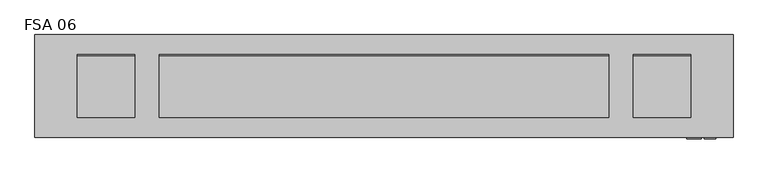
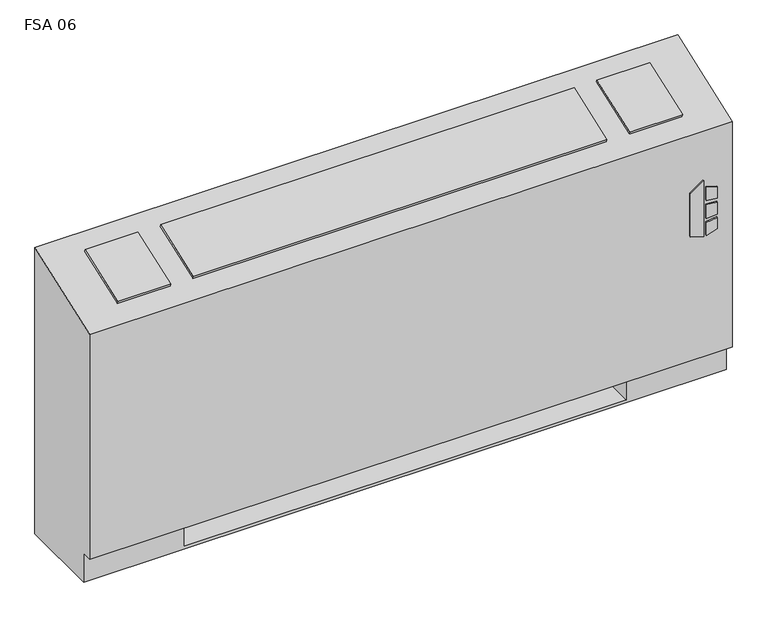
"""IFC4 building model written with IfcOpenShell, lengths in millimetres: proxy geometry, Vertical_Fan_Coil_Unit_-_FSA_-_IEC_-_4-Pipe_TS-FR_RH_2022 : FSA 06."""

from ifc_helpers import new_model, si_unit, point, frame, frame_2d, origin, place, context, project, spatial, polyline, circle_curve, trimmed, segment, composite_curve, outline, extrude, source, transform, mapped, element, save
from ifc_brep_helpers import plane_surface, revolved_surface, advanced_brep


def fsa_06_753d8a43(model_context):
    return source(origin(), model_context, "Body", "SolidModel", [
        extrude(outline(polyline([(391.6086829, 823.9868862), (381.6606126, 856.1602728), (523.831537, 856.1602728), (500.8095309, 823.9868862), (391.6086829, 823.9868862)])), frame((0.0, 12.7, 0.0), z_axis=(0.0, 1.0, 0.0), x_axis=(0.0, 0.0, 1.0)), (0.0, 0.0, 1.0), 3.175),
        extrude(outline(polyline([(470.6079683, 862.9186058), (467.4055757, 889.0), (496.6344168, 889.0), (504.6988318, 862.9186058), (470.6079683, 862.9186058)])), frame((0.0, 12.7, 0.0), z_axis=(0.0, 1.0, 0.0), x_axis=(0.0, 0.0, 1.0)), (0.0, 0.0, 1.0), 3.175),
        extrude(outline(polyline([(418.7444414, 889.0), (415.0789404, 862.9186058), (381.6606126, 862.9186058), (390.2948498, 889.0), (418.7444414, 889.0)])), frame((0.0, 12.7, 0.0), z_axis=(0.0, 1.0, 0.0), x_axis=(0.0, 0.0, 1.0)), (0.0, 0.0, 1.0), 3.175),
        extrude(outline(polyline([(458.0596028, 889.0), (460.3414292, 862.9186058), (424.4038806, 862.9186058), (427.1451456, 889.0), (458.0596028, 889.0)])), frame((0.0, 12.7, 0.0), z_axis=(0.0, 1.0, 0.0), x_axis=(0.0, 0.0, 1.0)), (0.0, 0.0, 1.0), 3.175),
        extrude(outline(polyline([(-501.65, 81.534), (-501.65, 223.266), (-381.0, 223.266), (-381.0, 81.534), (-501.65, 81.534)])), frame((0.0, 0.0, 327.025), z_axis=(0.0, 0.0, 1.0), x_axis=(1.0, 0.0, 0.0)), (0.0, 0.0, 1.0), 260.35),
        extrude(outline(composite_curve([segment(trimmed(circle_curve(frame_2d((749.3, 130.175)), 9.525), [point((739.775, 130.175))], [point((758.825, 130.175))], False, "CARTESIAN"), True, "CONTINUOUS"), segment(trimmed(circle_curve(frame_2d((749.3, 130.175)), 9.525), [point((758.825, 130.175))], [point((739.775, 130.175))], False, "CARTESIAN"), True, "CONTINUOUS")], self_intersect=False)), frame((0.0, 0.0, 101.6), z_axis=(0.0, 0.0, 1.0), x_axis=(1.0, 0.0, 0.0)), (0.0, 0.0, 1.0), 25.4),
        extrude(outline(polyline([(850.9, 196.85), (850.9, 63.5), (685.8, 63.5), (685.8, 196.85), (850.9, 196.85)])), frame((0.0, 0.0, 127.0), z_axis=(0.0, 0.0, 1.0), x_axis=(1.0, 0.0, 0.0)), (0.0, 0.0, 1.0), 50.8),
        extrude(outline(polyline([(0.0, -146.0500001), (0.0, 0.0), (127.0, 0.0), (127.0, -146.0500001), (0.0, -146.0500001)])), frame((-528.193, 200.4217127, 714.3418685), z_axis=(0.0, -0.3396444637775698, 0.9405538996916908), x_axis=(1.0, 0.0, 0.0)), (0.0, 0.0, 1.0), 6.35),
        extrude(outline(polyline([(0.0, -146.0500001), (0.0, 0.0), (996.95, 0.0), (996.95, -146.0500001), (0.0, -146.0500001)])), frame((650.875, 63.0538156, 664.7367945), z_axis=(0.0, -0.33964446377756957, 0.9405538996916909), x_axis=(-1.0, 0.0, 0.0)), (0.0, 0.0, 1.0), 6.35),
        extrude(outline(polyline([(0.0, -146.0500001), (0.0, 0.0), (127.0, 0.0), (127.0, -146.0500001), (0.0, -146.0500001)])), frame((832.993, 63.0538156, 664.7367945), z_axis=(0.0, -0.3396444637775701, 0.9405538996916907), x_axis=(-1.0, 0.0, 0.0)), (0.0, 0.0, 1.0), 6.35),
        extrude(outline(composite_curve([segment(trimmed(circle_curve(frame_2d((107.95, 457.2)), 7.9375), [point((107.95, 465.1375))], [point((107.95, 449.2625))], False, "CARTESIAN"), True, "CONTINUOUS"), segment(trimmed(circle_curve(frame_2d((107.95, 457.2)), 7.9375), [point((107.95, 449.2625))], [point((107.95, 465.1375))], False, "CARTESIAN"), True, "CONTINUOUS")], self_intersect=False)), frame((685.8, 0.0, 0.0), z_axis=(1.0, 0.0, 0.0), x_axis=(0.0, 1.0, 0.0)), (0.0, 0.0, 1.0), 50.8),
        extrude(outline(composite_curve([segment(trimmed(circle_curve(frame_2d((155.575, 431.8)), 7.9375), [point((155.575, 439.7375))], [point((155.575, 423.8625))], False, "CARTESIAN"), True, "CONTINUOUS"), segment(trimmed(circle_curve(frame_2d((155.575, 431.8)), 7.9375), [point((155.575, 423.8625))], [point((155.575, 439.7375))], False, "CARTESIAN"), True, "CONTINUOUS")], self_intersect=False)), frame((685.8, 0.0, 0.0), z_axis=(1.0, 0.0, 0.0), x_axis=(0.0, 1.0, 0.0)), (0.0, 0.0, 1.0), 50.8),
        extrude(outline(composite_curve([segment(trimmed(circle_curve(frame_2d((130.175, 554.99)), 7.9502), [point((130.175, 562.9402))], [point((130.175, 547.0398))], False, "CARTESIAN"), True, "CONTINUOUS"), segment(trimmed(circle_curve(frame_2d((130.175, 554.99)), 7.9502), [point((130.175, 547.0398))], [point((130.175, 562.9402))], False, "CARTESIAN"), True, "CONTINUOUS")], self_intersect=False)), frame((685.8, 0.0, 0.0), z_axis=(1.0, 0.0, 0.0), x_axis=(0.0, 1.0, 0.0)), (0.0, 0.0, 1.0), 50.8),
        extrude(outline(composite_curve([segment(trimmed(circle_curve(frame_2d((53.975, 416.56)), 7.9502), [point((53.975, 424.5102))], [point((53.975, 408.6098))], False, "CARTESIAN"), True, "CONTINUOUS"), segment(trimmed(circle_curve(frame_2d((53.975, 416.56)), 7.9502), [point((53.975, 408.6098))], [point((53.975, 424.5102))], False, "CARTESIAN"), True, "CONTINUOUS")], self_intersect=False)), frame((685.8, 0.0, 0.0), z_axis=(1.0, 0.0, 0.0), x_axis=(0.0, 1.0, 0.0)), (0.0, 0.0, 1.0), 50.8),
        advanced_brep(
        [(-622.3, 244.475, 0.0), (927.1, 244.475, 0.0), (927.1, 41.275, 0.0), (-622.3, 41.275, 0.0), (-622.3, 244.475, 730.25), (927.1, 244.475, 730.25), (685.8, 244.475, 73.025), (914.4, 244.475, 73.025), (914.4, 244.475, 654.05), (685.8, 244.475, 654.05), (685.8, 244.475, 414.8650565), (714.375, 244.475, 414.8650565), (714.375, 244.475, 385.2349435), (685.8, 244.475, 385.2349435), (685.8, 244.475, 287.3375), (714.375, 244.475, 287.3375), (714.375, 244.475, 258.7625), (685.8, 244.475, 258.7625), (685.8, 244.475, 141.2875), (714.375, 244.475, 141.2875), (714.375, 244.475, 112.7125), (685.8, 244.475, 112.7125), (-381.0, 244.475, 654.05), (-609.6, 244.475, 654.05), (-609.6, 244.475, 73.025), (-381.0, 244.475, 73.025), (-381.0, 244.475, 112.7125), (-409.575, 244.475, 112.7125), (-409.575, 244.475, 141.2875), (-381.0, 244.475, 141.2875), (-381.0, 244.475, 258.7625), (-409.575, 244.475, 258.7625), (-409.575, 244.475, 287.3375), (-381.0, 244.475, 287.3375), (-381.0, 244.475, 385.2349435), (-409.575, 244.475, 385.2349435), (-409.575, 244.475, 414.8650565), (-381.0, 244.475, 414.8650565), (704.0626, 244.475, 127.0), (692.9374, 244.475, 127.0), (704.0626, 244.475, 400.05), (692.9374, 244.475, 400.05), (704.0626, 244.475, 273.05), (692.9374, 244.475, 273.05), (-388.1374, 244.475, 127.0), (-399.2626, 244.475, 127.0), (-388.1374, 244.475, 273.05), (-399.2626, 244.475, 273.05), (-388.1374, 244.475, 400.05), (-399.2626, 244.475, 400.05), (-622.3, 41.275, 73.025), (-622.3, 15.875, 73.025), (-622.3, 15.875, 647.7), (927.1, 15.875, 73.025), (927.1, 15.875, 647.7), (927.1, 41.275, 73.025), (-381.0, 41.275, 73.025), (-381.0, 225.425, 73.025), (685.8, 225.425, 73.025), (685.8, 41.275, 73.025), (685.8, 41.275, 6.35), (-381.0, 41.275, 6.35), (685.8, 41.275, 654.05), (914.4, 41.275, 654.05), (914.4, 41.275, 73.025), (685.8, 41.275, 73.025), (-381.0, 41.275, 654.05), (-381.0, 41.275, 73.025), (-609.6, 41.275, 73.025), (-609.6, 41.275, 654.05), (685.8, 225.425, 73.025), (685.8, 238.125, 112.7125), (685.8, 238.125, 141.2875), (685.8, 238.125, 258.7625), (685.8, 238.125, 287.3375), (685.8, 238.125, 385.2349435), (685.8, 238.125, 414.8650565), (-381.0, 225.425, 73.025), (-381.0, 238.125, 414.8650565), (-381.0, 238.125, 385.2349435), (-381.0, 238.125, 287.3375), (-381.0, 238.125, 258.7625), (-381.0, 238.125, 141.2875), (-381.0, 238.125, 112.7125), (-381.0, 225.425, 6.35), (685.8, 225.425, 6.35), (714.375, 238.125, 112.7125), (714.375, 238.125, 141.2875), (692.9374, 238.125, 127.0), (704.0626, 238.125, 127.0), (714.375, 238.125, 258.7625), (714.375, 238.125, 287.3375), (692.9374, 238.125, 273.05), (704.0626, 238.125, 273.05), (714.375, 238.125, 385.2349435), (714.375, 238.125, 414.8650565), (692.9374, 238.125, 400.05), (704.0626, 238.125, 400.05), (-409.575, 238.125, 141.2875), (-409.575, 238.125, 112.7125), (-399.2626, 238.125, 127.0), (-388.1374, 238.125, 127.0), (-409.575, 238.125, 287.3375), (-409.575, 238.125, 258.7625), (-399.2626, 238.125, 273.05), (-388.1374, 238.125, 273.05), (-409.575, 238.125, 414.8650565), (-409.575, 238.125, 385.2349435), (-399.2626, 238.125, 400.05), (-388.1374, 238.125, 400.05)],
        [
            (0, 1),
            (1, 2),
            (2, 3),
            (3, 0),
            (0, 4),
            (4, 5),
            (5, 1),
            (6, 7),
            (7, 8),
            (8, 9),
            (9, 10),
            (10, 11),
            (11, 12),
            (12, 13),
            (13, 14),
            (14, 15),
            (15, 16),
            (16, 17),
            (17, 18),
            (18, 19),
            (19, 20),
            (20, 21),
            (21, 6),
            (22, 23),
            (23, 24),
            (24, 25),
            (25, 26),
            (26, 27),
            (27, 28),
            (28, 29),
            (29, 30),
            (30, 31),
            (31, 32),
            (32, 33),
            (33, 34),
            (34, 35),
            (35, 36),
            (36, 37),
            (37, 22),
            (38, 39, circle_curve(frame((698.5, 244.475, 127.0), z_axis=(0.0, -1.0, 0.0), x_axis=(-1.0, 0.0, 0.0)), 5.5626)),
            (39, 38, circle_curve(frame((698.5, 244.475, 127.0), z_axis=(0.0, -1.0, 0.0), x_axis=(-1.0, 0.0, 0.0)), 5.5626)),
            (40, 41, circle_curve(frame((698.5, 244.475, 400.05), z_axis=(0.0, -1.0, 0.0), x_axis=(-1.0, 0.0, 0.0)), 5.5626)),
            (41, 40, circle_curve(frame((698.5, 244.475, 400.05), z_axis=(0.0, -1.0, 0.0), x_axis=(-1.0, 0.0, 0.0)), 5.5626)),
            (42, 43, circle_curve(frame((698.5, 244.475, 273.05), z_axis=(0.0, -1.0, 0.0), x_axis=(-1.0, 0.0, 0.0)), 5.5626)),
            (43, 42, circle_curve(frame((698.5, 244.475, 273.05), z_axis=(0.0, -1.0, 0.0), x_axis=(-1.0, 0.0, 0.0)), 5.5626)),
            (44, 45, circle_curve(frame((-393.7, 244.475, 127.0), z_axis=(0.0, -1.0, 0.0), x_axis=(-1.0, 0.0, 0.0)), 5.5626)),
            (45, 44, circle_curve(frame((-393.7, 244.475, 127.0), z_axis=(0.0, -1.0, 0.0), x_axis=(-1.0, 0.0, 0.0)), 5.5626)),
            (46, 47, circle_curve(frame((-393.7, 244.475, 273.05), z_axis=(0.0, -1.0, 0.0), x_axis=(-1.0, 0.0, 0.0)), 5.5626)),
            (47, 46, circle_curve(frame((-393.7, 244.475, 273.05), z_axis=(0.0, -1.0, 0.0), x_axis=(-1.0, 0.0, 0.0)), 5.5626)),
            (48, 49, circle_curve(frame((-393.7, 244.475, 400.05), z_axis=(0.0, -1.0, 0.0), x_axis=(-1.0, 0.0, 0.0)), 5.5626)),
            (49, 48, circle_curve(frame((-393.7, 244.475, 400.05), z_axis=(0.0, -1.0, 0.0), x_axis=(-1.0, 0.0, 0.0)), 5.5626)),
            (3, 50),
            (50, 51),
            (51, 52),
            (52, 4),
            (51, 53),
            (53, 54),
            (54, 52),
            (5, 54),
            (53, 55),
            (55, 2),
            (50, 56),
            (56, 57),
            (57, 58),
            (58, 59),
            (59, 55),
            (59, 60),
            (60, 61),
            (61, 56),
            (62, 63),
            (63, 64),
            (64, 65),
            (65, 62),
            (66, 67),
            (67, 68),
            (68, 69),
            (69, 66),
            (65, 70),
            (70, 6),
            (21, 71),
            (71, 72),
            (72, 18),
            (17, 73),
            (73, 74),
            (74, 14),
            (13, 75),
            (75, 76),
            (76, 10),
            (9, 62),
            (64, 7),
            (63, 8),
            (69, 23),
            (22, 66),
            (68, 24),
            (67, 77),
            (77, 25),
            (37, 78),
            (78, 79),
            (79, 34),
            (33, 80),
            (80, 81),
            (81, 30),
            (29, 82),
            (82, 83),
            (83, 26),
            (57, 84),
            (84, 85),
            (85, 58),
            (85, 60),
            (84, 61),
            (71, 86),
            (86, 87),
            (87, 72),
            (88, 89, circle_curve(frame((698.5, 238.125, 127.0), z_axis=(0.0, 1.0, 0.0), x_axis=(-1.0, 0.0, 0.0)), 5.5626)),
            (89, 88, circle_curve(frame((698.5, 238.125, 127.0), z_axis=(0.0, 1.0, 0.0), x_axis=(-1.0, 0.0, 0.0)), 5.5626)),
            (73, 90),
            (90, 91),
            (91, 74),
            (92, 93, circle_curve(frame((698.5, 238.125, 273.05), z_axis=(0.0, 1.0, 0.0), x_axis=(-1.0, 0.0, 0.0)), 5.5626)),
            (93, 92, circle_curve(frame((698.5, 238.125, 273.05), z_axis=(0.0, 1.0, 0.0), x_axis=(-1.0, 0.0, 0.0)), 5.5626)),
            (75, 94),
            (94, 95),
            (95, 76),
            (96, 97, circle_curve(frame((698.5, 238.125, 400.05), z_axis=(0.0, 1.0, 0.0), x_axis=(-1.0, 0.0, 0.0)), 5.5626)),
            (97, 96, circle_curve(frame((698.5, 238.125, 400.05), z_axis=(0.0, 1.0, 0.0), x_axis=(-1.0, 0.0, 0.0)), 5.5626)),
            (98, 99),
            (99, 83),
            (82, 98),
            (100, 101, circle_curve(frame((-393.7, 238.125, 127.0), z_axis=(0.0, 1.0, 0.0), x_axis=(-1.0, 0.0, 0.0)), 5.5626)),
            (101, 100, circle_curve(frame((-393.7, 238.125, 127.0), z_axis=(0.0, 1.0, 0.0), x_axis=(-1.0, 0.0, 0.0)), 5.5626)),
            (102, 103),
            (103, 81),
            (80, 102),
            (104, 105, circle_curve(frame((-393.7, 238.125, 273.05), z_axis=(0.0, 1.0, 0.0), x_axis=(-1.0, 0.0, 0.0)), 5.5626)),
            (105, 104, circle_curve(frame((-393.7, 238.125, 273.05), z_axis=(0.0, 1.0, 0.0), x_axis=(-1.0, 0.0, 0.0)), 5.5626)),
            (106, 107),
            (107, 79),
            (78, 106),
            (108, 109, circle_curve(frame((-393.7, 238.125, 400.05), z_axis=(0.0, 1.0, 0.0), x_axis=(-1.0, 0.0, 0.0)), 5.5626)),
            (109, 108, circle_curve(frame((-393.7, 238.125, 400.05), z_axis=(0.0, 1.0, 0.0), x_axis=(-1.0, 0.0, 0.0)), 5.5626)),
            (87, 19),
            (86, 20),
            (91, 15),
            (90, 16),
            (95, 11),
            (94, 12),
            (28, 98),
            (99, 27),
            (32, 102),
            (103, 31),
            (36, 106),
            (107, 35),
            (88, 39),
            (38, 89),
            (96, 41),
            (40, 97),
            (92, 43),
            (42, 93),
            (100, 45),
            (44, 101),
            (104, 47),
            (46, 105),
            (108, 49),
            (48, 109),
        ],
        [
            plane_surface(frame((-622.3, 244.475, 0.0), z_axis=(0.0, 0.0, -1.0), x_axis=(1.0, 0.0, 0.0))),
            plane_surface(frame((927.1, 244.475, 730.25), z_axis=(0.0, 1.0, 0.0), x_axis=(0.0, 0.0, -1.0))),
            plane_surface(frame((-622.3, 244.475, 730.25), z_axis=(-1.0, 0.0, 0.0), x_axis=(0.0, 0.0, -1.0))),
            plane_surface(frame((-622.3, 15.875, 730.25), z_axis=(0.0, -1.0, 0.0), x_axis=(0.0, 0.0, -1.0))),
            plane_surface(frame((927.1, 15.875, 730.25), z_axis=(1.0, 0.0, 0.0), x_axis=(0.0, 0.0, -1.0))),
            plane_surface(frame((-622.3, 15.875, 73.025), z_axis=(0.0, 0.0, -1.0), x_axis=(1.0, 0.0, 0.0))),
            plane_surface(frame((-622.3, 41.275, 73.025), z_axis=(0.0, -1.0, 0.0), x_axis=(1.0, 0.0, 0.0))),
            plane_surface(frame((685.8, 41.275, 654.05), z_axis=(0.0, 1.0, 0.0), x_axis=(0.0, 0.0, -1.0))),
            plane_surface(frame((685.8, 41.275, 654.05), z_axis=(1.0, 0.0, 0.0), x_axis=(0.0, 1.0, 0.0))),
            plane_surface(frame((685.8, 41.275, 73.025), z_axis=(0.0, 0.0, 1.0), x_axis=(0.0, 1.0, 0.0))),
            plane_surface(frame((914.4, 41.275, 73.025), z_axis=(-1.0, 0.0, 0.0), x_axis=(0.0, 1.0, 0.0))),
            plane_surface(frame((914.4, 41.275, 654.05), z_axis=(0.0, 0.0, -1.0), x_axis=(0.0, 1.0, 0.0))),
            plane_surface(frame((-381.0, 41.275, 654.05), z_axis=(0.0, 0.0, -1.0), x_axis=(0.0, 1.0, 0.0))),
            plane_surface(frame((-609.6, 41.275, 654.05), z_axis=(1.0, 0.0, 0.0), x_axis=(0.0, 1.0, 0.0))),
            plane_surface(frame((-609.6, 41.275, 73.025), z_axis=(0.0, 0.0, 1.0), x_axis=(0.0, 1.0, 0.0))),
            plane_surface(frame((-381.0, 41.275, 73.025), z_axis=(-1.0, 0.0, 0.0), x_axis=(0.0, 1.0, 0.0))),
            plane_surface(frame((685.8, 225.425, 73.025), z_axis=(0.0, -1.0, 0.0), x_axis=(0.0, 0.0, -1.0))),
            plane_surface(frame((685.8, 225.425, 73.025), z_axis=(-1.0, 0.0, 0.0), x_axis=(0.0, -1.0, 0.0))),
            plane_surface(frame((685.8, 225.425, 6.35), z_axis=(0.0, 0.0, 1.0), x_axis=(0.0, -1.0, 0.0))),
            plane_surface(frame((-381.0, 225.425, 6.35), z_axis=(1.0, 0.0, 0.0), x_axis=(0.0, -1.0, 0.0))),
            plane_surface(frame((714.375, 238.125, 141.2875), z_axis=(0.0, -1.0, 0.0), x_axis=(-1.0, 0.0, 0.0))),
            plane_surface(frame((685.8, 244.475, 141.2875), z_axis=(0.0, 0.0, 1.0), x_axis=(0.0, -1.0, 0.0))),
            plane_surface(frame((714.375, 244.475, 141.2875), z_axis=(1.0, 0.0, 0.0), x_axis=(0.0, -1.0, 0.0))),
            plane_surface(frame((714.375, 244.475, 112.7125), z_axis=(0.0, 0.0, -1.0), x_axis=(0.0, -1.0, 0.0))),
            plane_surface(frame((685.8, 244.475, 287.3375), z_axis=(0.0, 0.0, 1.0), x_axis=(0.0, -1.0, 0.0))),
            plane_surface(frame((714.375, 244.475, 287.3375), z_axis=(1.0, 0.0, 0.0), x_axis=(0.0, -1.0, 0.0))),
            plane_surface(frame((714.375, 244.475, 258.7625), z_axis=(0.0, 0.0, -1.0), x_axis=(0.0, -1.0, 0.0))),
            plane_surface(frame((685.8, 244.475, 414.8650565), z_axis=(0.0, 0.0, 1.0), x_axis=(0.0, -1.0, 0.0))),
            plane_surface(frame((714.375, 244.475, 414.8650565), z_axis=(1.0, 0.0, 0.0), x_axis=(0.0, -1.0, 0.0))),
            plane_surface(frame((714.375, 244.475, 385.2349435), z_axis=(0.0, 0.0, -1.0), x_axis=(0.0, -1.0, 0.0))),
            plane_surface(frame((-409.575, 244.475, 141.2875), z_axis=(0.0, 0.0, 1.0), x_axis=(0.0, -1.0, 0.0))),
            plane_surface(frame((-381.0, 244.475, 112.7125), z_axis=(0.0, 0.0, -1.0), x_axis=(0.0, -1.0, 0.0))),
            plane_surface(frame((-409.575, 244.475, 112.7125), z_axis=(-1.0, 0.0, 0.0), x_axis=(0.0, -1.0, 0.0))),
            plane_surface(frame((-409.575, 244.475, 287.3375), z_axis=(0.0, 0.0, 1.0), x_axis=(0.0, -1.0, 0.0))),
            plane_surface(frame((-381.0, 244.475, 258.7625), z_axis=(0.0, 0.0, -1.0), x_axis=(0.0, -1.0, 0.0))),
            plane_surface(frame((-409.575, 244.475, 258.7625), z_axis=(-1.0, 0.0, 0.0), x_axis=(0.0, -1.0, 0.0))),
            plane_surface(frame((-409.575, 244.475, 414.8650565), z_axis=(0.0, 0.0, 1.0), x_axis=(0.0, -1.0, 0.0))),
            plane_surface(frame((-381.0, 244.475, 385.2349435), z_axis=(0.0, 0.0, -1.0), x_axis=(0.0, -1.0, 0.0))),
            plane_surface(frame((-409.575, 244.475, 385.2349435), z_axis=(-1.0, 0.0, 0.0), x_axis=(0.0, -1.0, 0.0))),
            revolved_surface(polyline([(692.9374, 238.125, 127.0), (692.9374, 244.475, 127.0)]), (698.5, 244.475, 127.0), (0.0, -1.0, 0.0)),
            revolved_surface(polyline([(692.9374, 238.125, 400.05), (692.9374, 244.475, 400.05)]), (698.5, 244.475, 400.05), (0.0, -1.0, 0.0)),
            revolved_surface(polyline([(692.9374, 238.125, 273.05), (692.9374, 244.475, 273.05)]), (698.5, 244.475, 273.05), (0.0, -1.0, 0.0)),
            revolved_surface(polyline([(-399.26259999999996, 238.125, 127.0), (-399.26259999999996, 244.475, 127.0)]), (-393.7, 244.475, 127.0), (0.0, -1.0, 0.0)),
            revolved_surface(polyline([(-399.26259999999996, 238.125, 273.05), (-399.26259999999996, 244.475, 273.05)]), (-393.7, 244.475, 273.05), (0.0, -1.0, 0.0)),
            revolved_surface(polyline([(-399.26259999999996, 238.125, 400.05), (-399.26259999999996, 244.475, 400.05)]), (-393.7, 244.475, 400.05), (0.0, -1.0, 0.0)),
            plane_surface(frame((-622.3, 244.475, 730.25), z_axis=(0.0, -0.33964446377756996, 0.9405538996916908), x_axis=(1.0, 0.0, 0.0))),
        ],
        [
            (0, [[1, 2, 3, 4]]),
            (1, [[-1, 5, 6, 7], [8, 9, 10, 11, 12, 13, 14, 15, 16, 17, 18, 19, 20, 21, 22, 23], [24, 25, 26, 27, 28, 29, 30, 31, 32, 33, 34, 35, 36, 37, 38, 39], [40, 41], [42, 43], [44, 45], [46, 47], [48, 49], [50, 51]]),
            (2, [[-5, -4, 52, 53, 54, 55]]),
            (3, [[56, 57, 58, -54]]),
            (4, [[-7, 59, -57, 60, 61, -2]]),
            (5, [[-53, 62, 63, 64, 65, 66, -60, -56]]),
            (6, [[-3, -61, -66, 67, 68, 69, -62, -52]]),
            (7, [[70, 71, 72, 73]]),
            (7, [[74, 75, 76, 77]]),
            (8, [[-73, 78, 79, -23, 80, 81, 82, -19, 83, 84, 85, -15, 86, 87, 88, -11, 89]]),
            (9, [[-72, 90, -8, -79, -78]]),
            (10, [[-71, 91, -9, -90]]),
            (11, [[-70, -89, -10, -91]]),
            (12, [[-77, 92, -24, 93]]),
            (13, [[-76, 94, -25, -92]]),
            (14, [[-75, 95, 96, -26, -94]]),
            (15, [[-74, -93, -39, 97, 98, 99, -35, 100, 101, 102, -31, 103, 104, 105, -27, -96, -95]]),
            (16, [[-64, 106, 107, 108]]),
            (17, [[-108, 109, -67, -65]]),
            (18, [[-107, 110, -68, -109]]),
            (19, [[-106, -63, -69, -110]]),
            (20, [[111, 112, 113, -81], [114, 115]]),
            (20, [[116, 117, 118, -84], [119, 120]]),
            (20, [[121, 122, 123, -87], [124, 125]]),
            (20, [[126, 127, -104, 128], [129, 130]]),
            (20, [[131, 132, -101, 133], [134, 135]]),
            (20, [[136, 137, -98, 138], [139, 140]]),
            (21, [[-113, 141, -20, -82]]),
            (22, [[-112, 142, -21, -141]]),
            (23, [[-111, -80, -22, -142]]),
            (24, [[-118, 143, -16, -85]]),
            (25, [[-117, 144, -17, -143]]),
            (26, [[-116, -83, -18, -144]]),
            (27, [[-123, 145, -12, -88]]),
            (28, [[-122, 146, -13, -145]]),
            (29, [[-121, -86, -14, -146]]),
            (30, [[-128, -103, -30, 147]]),
            (31, [[-127, 148, -28, -105]]),
            (32, [[-126, -147, -29, -148]]),
            (33, [[-133, -100, -34, 149]]),
            (34, [[-132, 150, -32, -102]]),
            (35, [[-131, -149, -33, -150]]),
            (36, [[-138, -97, -38, 151]]),
            (37, [[-137, 152, -36, -99]]),
            (38, [[-136, -151, -37, -152]]),
            (39, [[153, -40, 154, -114]]),
            (39, [[-153, -115, -154, -41]]),
            (40, [[155, -42, 156, -124]]),
            (40, [[-155, -125, -156, -43]]),
            (41, [[157, -44, 158, -119]]),
            (41, [[-157, -120, -158, -45]]),
            (42, [[159, -46, 160, -129]]),
            (42, [[-159, -130, -160, -47]]),
            (43, [[161, -48, 162, -134]]),
            (43, [[-161, -135, -162, -49]]),
            (44, [[163, -50, 164, -139]]),
            (44, [[-163, -140, -164, -51]]),
            (45, [[-6, -55, -58, -59]]),
        ],
    ),
    ])


if __name__ == "__main__":
    model = new_model("IFC4")
    model_context = context("Model", 3, world=origin())
    ifc_project = project(units=[si_unit("LENGTHUNIT", "METRE", prefix="MILLI")], contexts=[model_context])
    site = spatial("IfcSite", under=ifc_project)
    building = spatial("IfcBuilding", under=site)
    placement = place(None, origin())
    fsa_06_shape = fsa_06_753d8a43(model_context)
    element("IfcBuildingElementProxy", 1, Name="Vertical_Fan_Coil_Unit_-_FSA_-_IEC_-_4-Pipe_TS-FR_RH_2022 : FSA 06", ObjectType="Vertical_Fan_Coil_Unit_-_FSA_-_IEC_-_4-Pipe_TS-FR_RH_2022 : FSA 06", at=placement, inside=building, context=model_context, shape_type="MappedRepresentation", body=[
        mapped(fsa_06_shape, transform((0.0, 0.0, 0.0), x_axis=(1.0, 0.0, 0.0), y_axis=(0.0, 1.0, 0.0), z_axis=(0.0, 0.0, 1.0))),
    ])
    save(model, "model.ifc")
